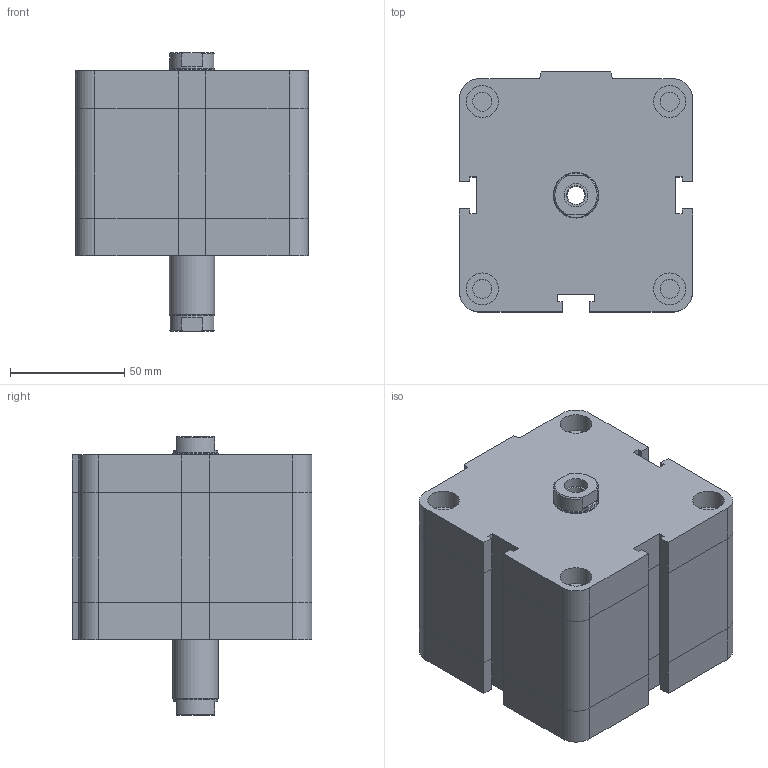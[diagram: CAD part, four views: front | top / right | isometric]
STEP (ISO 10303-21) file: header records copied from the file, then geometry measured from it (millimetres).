
FILE_DESCRIPTION((''),'2;1');
FILE_NAME('I:\Area Tecnica\Disegni\VARIE-3D\Componenti\EUROPE\15##_###_####_06_#\1581_80_0025_06_1.iam.stp','2009-04-20T15:11:40',(''),(''),'Autodesk Inventor 2009','Autodesk Inventor 2009','');
FILE_SCHEMA(('AUTOMOTIVE_DESIGN { 1 0 10303 214 1 1 1 1 }'));
Length unit declared in the file: millimetre
Products named in the file (3): 1581_80_0025_06_1; 1581_80_0025_03_1_C; 1561_80_0025_06_1_S
Assembly tree (2 placements, depth 2):
  1581_80_0025_06_1
    1581_80_0025_03_1_C
    1561_80_0025_06_1_S
Bounding box: 102 x 105 x 122 mm (x, y, z)
Volume: 808293 mm3; surface area: 80482.1 mm2
Topology: 2 solids, 2 shells, 175 faces, 382 edges, 233 vertices
Faces by surface type: plane 114, bspline 30, cylinder 25, cone 6
Full cylindrical faces by diameter (mm): 8.376 x5, 10.3 x1, 14 x4, 19.5 x2, 20 x1
Entity records: 4805 total; most frequent: CARTESIAN_POINT 1042, DIRECTION 712, ORIENTED_EDGE 680, EDGE_CURVE 340, VECTOR 252, LINE 252, AXIS2_PLACEMENT_3D 230, EDGE_LOOP 230
